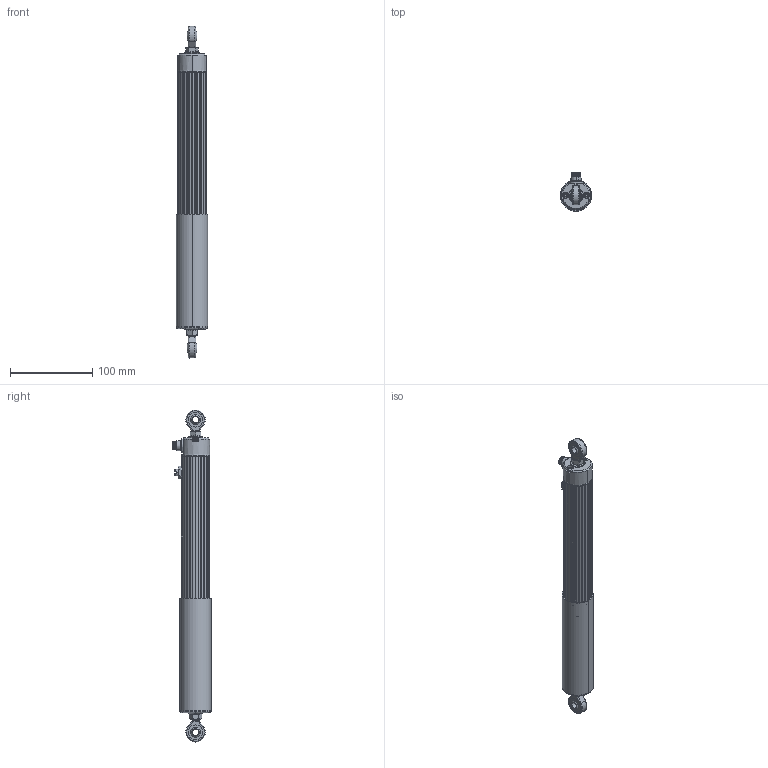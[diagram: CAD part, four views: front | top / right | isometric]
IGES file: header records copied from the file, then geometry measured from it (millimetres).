
Start section: SolidWorks IGES file using analytic representation for surfaces
Global section: file name: I:\Zeichnungen_EK-VM\ZUR BEARBEITUNG\neu_sz\LWX-002\Bewegungseinheit\0100.IGS; native system: SolidWorks 2009; preprocessor: SolidWorks 2009; author: salzinger; date: 090127.110022; units: millimetre
Bounding box: 38 x 46.6 x 403.6 mm (x, y, z)
Volume: 254448.8 mm3; surface area: 99852.5 mm2
Topology: 34 solids, 34 shells, 1092 faces, 5772 edges, 7505 vertices
Faces by surface type: revolution 684, plane 338, bspline 70
